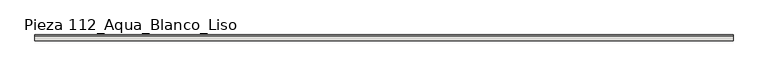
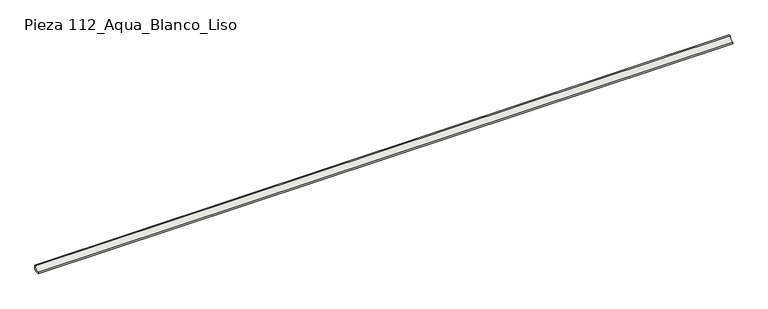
"""IFC4 building model written with IfcOpenShell, lengths in millimetres: slab geometry, ROSA GRES_112 : Pieza 112_Aqua_Blanco_Liso."""

import ifcopenshell
import ifcopenshell.guid

model = None  # the IFC model being written
_history = None  # IfcOwnerHistory: only IFC2X3 demands one
_inside = {}  # id of a spatial element -> (the spatial element, [elements in it])
_under = {}  # id of a project, library or spatial element -> (it, [spatial elements below it])
_declared = {}  # id of a project -> (the project, [libraries it declares])
_typed = {}  # id of a type object -> (the type object, [elements of that type])
_made_of = {}  # id of a material, layer set ... -> (it, [elements and type objects made of it])


def new_model(schema):
    """Start an empty IFC model of exactly this schema.

    Asked for "IFC4X3", IfcOpenShell would pick the latest addendum, in which some entities
    have other attributes; the version numbers below select the first issue.
    IFC2X3 requires an IfcOwnerHistory on every rooted entity: one is made here for all.
    """
    global model, _history
    if schema == "IFC4X3":
        model = ifcopenshell.file(schema_version=(4, 3, 0, 0))
    else:
        model = ifcopenshell.file(schema=schema)
    _inside.clear()
    _under.clear()
    _declared.clear()
    _typed.clear()
    _made_of.clear()
    _history = None
    if model.schema == "IFC2X3":
        org = make("IfcOrganization", Name="unknown")
        user = make(
            "IfcPersonAndOrganization",
            ThePerson=make("IfcPerson", FamilyName="unknown"),
            TheOrganization=org,
        )
        app = make(
            "IfcApplication",
            ApplicationDeveloper=org,
            Version="unknown",
            ApplicationFullName="unknown",
            ApplicationIdentifier="unknown",
        )
        _history = make(
            "IfcOwnerHistory",
            OwningUser=user,
            OwningApplication=app,
            ChangeAction="ADDED",
            CreationDate=0,
        )
    return model


def make(cls, **values):
    """One entity of the class cls with the attributes given. An attribute that is None is left unset."""
    return model.create_entity(
        cls, **{name: value for name, value in values.items() if value is not None}
    )


def rooted(cls, **values):
    """An entity with a GlobalId (a new one), such as an element, a storey or a relation."""
    return make(cls, GlobalId=ifcopenshell.guid.new(), OwnerHistory=_history, **values)


def si_unit(unit_type, name, prefix=None):
    """IfcSIUnit, for example si_unit("LENGTHUNIT", "METRE", prefix="MILLI")."""
    return make("IfcSIUnit", UnitType=unit_type, Prefix=prefix, Name=name)


def assignment(units):
    """IfcUnitAssignment: the units of a project."""
    return None if units is None else make("IfcUnitAssignment", Units=units)


def point(xyz):
    """IfcCartesianPoint."""
    return None if xyz is None else make("IfcCartesianPoint", Coordinates=xyz)


def direction(xyz):
    """IfcDirection."""
    return None if xyz is None else make("IfcDirection", DirectionRatios=xyz)


def frame(location, z_axis=None, x_axis=None):
    """IfcAxis2Placement3D, a coordinate frame: its origin and axes. An axis left out is left unset."""
    return make(
        "IfcAxis2Placement3D",
        Location=point(location),
        Axis=direction(z_axis),
        RefDirection=direction(x_axis),
    )


def frame_2d(location, x_axis=None):
    """IfcAxis2Placement2D, a coordinate frame in the plane: its origin and x axis."""
    return make(
        "IfcAxis2Placement2D", Location=point(location), RefDirection=direction(x_axis)
    )


def origin():
    """The frame at (0, 0, 0) with its axes left unset."""
    return frame((0.0, 0.0, 0.0))


def place(relative_to, where):
    """IfcLocalPlacement: puts the frame where relative to a parent placement (None: the world)."""
    return make(
        "IfcLocalPlacement", PlacementRelTo=relative_to, RelativePlacement=where
    )


def context(
    kind, dimensions, precision=None, world=None, true_north=None, identifier=None
):
    """IfcGeometricRepresentationContext, for example the 3D "Model" context."""
    return make(
        "IfcGeometricRepresentationContext",
        ContextIdentifier=identifier,
        ContextType=kind,
        CoordinateSpaceDimension=dimensions,
        Precision=precision,
        WorldCoordinateSystem=world,
        TrueNorth=true_north,
    )


def project(units=None, contexts=None):
    """IfcProject with its units and contexts."""
    return rooted(
        "IfcProject",
        Name="project",
        RepresentationContexts=contexts,
        UnitsInContext=assignment(units),
    )


def spatial(cls, under=None, at=None, **own):
    """A site, building, storey or space (cls), placed at a placement, below another one or the project."""
    s = rooted(cls, ObjectPlacement=at, **own)
    if under is not None:
        _under.setdefault(under.id(), (under, []))[1].append(s)
    return s


def polyline(points):
    """IfcPolyline through the points."""
    return make("IfcPolyline", Points=[point(p) for p in points])


def circle_curve(where, radius):
    """IfcCircle in the frame where."""
    return make("IfcCircle", Position=where, Radius=radius)


def trimmed(basis, trim1, trim2, sense, master):
    """IfcTrimmedCurve: the piece of a basis curve between two trims."""
    return make(
        "IfcTrimmedCurve",
        BasisCurve=basis,
        Trim1=trim1,
        Trim2=trim2,
        SenseAgreement=sense,
        MasterRepresentation=master,
    )


def segment(curve, same_sense, transition):
    """IfcCompositeCurveSegment."""
    return make(
        "IfcCompositeCurveSegment",
        Transition=transition,
        SameSense=same_sense,
        ParentCurve=curve,
    )


def composite_curve(segments, self_intersect=None):
    """IfcCompositeCurve: segments joined end to end."""
    return make("IfcCompositeCurve", Segments=segments, SelfIntersect=self_intersect)


def outline(outer, holes=None, kind="AREA"):
    """IfcArbitraryClosedProfileDef: a profile drawn as a closed curve; with holes, ...WithVoids."""
    if holes is None:
        return make("IfcArbitraryClosedProfileDef", ProfileType=kind, OuterCurve=outer)
    return make(
        "IfcArbitraryProfileDefWithVoids",
        ProfileType=kind,
        OuterCurve=outer,
        InnerCurves=holes,
    )


def extrude(swept, where, along, depth):
    """IfcExtrudedAreaSolid: the profile swept, set in the frame where, extruded along a direction by depth."""
    return make(
        "IfcExtrudedAreaSolid",
        SweptArea=swept,
        Position=where,
        ExtrudedDirection=direction(along),
        Depth=depth,
    )


def shape(context_of_items, identifier, shape_type, items):
    """IfcShapeRepresentation: the items that make up one representation, for example the "Body"."""
    return make(
        "IfcShapeRepresentation",
        ContextOfItems=context_of_items,
        RepresentationIdentifier=identifier,
        RepresentationType=shape_type,
        Items=items,
    )


def source(mapping_origin, context_of_items, identifier, shape_type, items):
    """IfcRepresentationMap: a shape defined once, which mapped items show again and again."""
    return make(
        "IfcRepresentationMap",
        MappingOrigin=mapping_origin,
        MappedRepresentation=shape(context_of_items, identifier, shape_type, items),
    )


def transform(
    local_origin,
    x_axis=None,
    y_axis=None,
    z_axis=None,
    scale=None,
    scale2=None,
    scale3=None,
    uniform=True,
):
    """IfcCartesianTransformationOperator3D, or its non-uniform kind. x_axis, y_axis, z_axis: its Axis1, 2, 3."""
    if uniform:
        return make(
            "IfcCartesianTransformationOperator3D",
            Axis1=direction(x_axis),
            Axis2=direction(y_axis),
            LocalOrigin=point(local_origin),
            Scale=scale,
            Axis3=direction(z_axis),
        )
    return make(
        "IfcCartesianTransformationOperator3DnonUniform",
        Axis1=direction(x_axis),
        Axis2=direction(y_axis),
        LocalOrigin=point(local_origin),
        Scale=scale,
        Axis3=direction(z_axis),
        Scale2=scale2,
        Scale3=scale3,
    )


def mapped(mapping_source, mapping_target):
    """IfcMappedItem: shows the shape of a source again, moved by a transform."""
    return make(
        "IfcMappedItem", MappingSource=mapping_source, MappingTarget=mapping_target
    )


def made_of(thing, what):
    """Note that an element or type object is made of a material, layer set ...; save() writes the relation."""
    if what is not None:
        _made_of.setdefault(what.id(), (what, []))[1].append(thing)
    return thing


def element(
    cls,
    number,
    at=None,
    inside=None,
    cuts=None,
    type_object=None,
    material=None,
    context=None,
    identifier="Body",
    shape_type=None,
    held_by="IfcProductDefinitionShape",
    body=None,
    shapes=None,
    **own,
):
    """One element of the class cls, such as IfcWall. Its Tag is "e" and its number.

    at: its placement. inside: the storey or other place that contains it. cuts: it is an
    opening in that element (IfcRelVoidsElement). A single representation is given by context,
    identifier, shape_type and body (its items); several are given by shapes. held_by: the class
    of the entity that holds the representations. save() writes the other relations.
    """
    e = rooted(cls, Tag="e%d" % number, ObjectPlacement=at, **own)
    if body is not None:
        shapes = [shape(context, identifier, shape_type, body)]
    if shapes is not None:
        e.Representation = make(held_by, Representations=shapes)
    if inside is not None:
        _inside.setdefault(inside.id(), (inside, []))[1].append(e)
    if cuts is not None:
        rooted(
            "IfcRelVoidsElement", RelatingBuildingElement=cuts, RelatedOpeningElement=e
        )
    if type_object is not None:
        _typed.setdefault(type_object.id(), (type_object, []))[1].append(e)
    return made_of(e, material)


def aggregate(whole, parts):
    """IfcRelAggregates: a whole, such as a stair, and the parts it consists of."""
    return rooted("IfcRelAggregates", RelatingObject=whole, RelatedObjects=parts)


def save(model, path):
    """Write the relations noted so far, then the file.

    IfcRelAggregates (storeys below a building ...), IfcRelContainedInSpatialStructure (elements
    in a storey), IfcRelDefinesByType, IfcRelAssociatesMaterial and IfcRelDeclares: one each for
    every whole, place, type object, material and project.
    """
    for whole, parts in _under.values():
        aggregate(whole, parts)
    for where, things in _inside.values():
        rooted(
            "IfcRelContainedInSpatialStructure",
            RelatedElements=things,
            RelatingStructure=where,
        )
    for kind, things in _typed.values():
        rooted("IfcRelDefinesByType", RelatedObjects=things, RelatingType=kind)
    for what, things in _made_of.values():
        rooted("IfcRelAssociatesMaterial", RelatedObjects=things, RelatingMaterial=what)
    for by, libraries in _declared.values():
        rooted("IfcRelDeclares", RelatingContext=by, RelatedDefinitions=libraries)
    model.write(path)


def pieza_112_aqua_blanco_liso_17d7c7d5(model_context):
    return source(origin(), model_context, "Body", "SweptSolid", [
        extrude(outline(composite_curve([segment(polyline([(0.0, 8.7114978), (-8.7114978, 0.0), (-40.0, 0.0), (-40.0, 9.9734114)]), True, "CONTINUOUS"), segment(trimmed(circle_curve(frame_2d((-39.9955547, 39.9955547)), 30.0221435), [point((-40.0, 9.9734114))], [point((-9.9734114, 40.0))], True, "CARTESIAN"), True, "CONTINUOUS"), segment(polyline([(-9.9734114, 40.0), (0.0, 40.0), (0.0, 8.7114978)]), True, "CONTINUOUS")], self_intersect=False)), frame((0.0, 0.0, 0.0), z_axis=(1.0, 0.0, 0.0), x_axis=(0.0, 1.0, 0.0)), (0.0, 0.0, 1.0), 4795.2960537),
    ])


if __name__ == "__main__":
    model = new_model("IFC4")
    model_context = context("Model", 3, world=origin())
    ifc_project = project(units=[si_unit("LENGTHUNIT", "METRE", prefix="MILLI")], contexts=[model_context])
    site = spatial("IfcSite", under=ifc_project)
    building = spatial("IfcBuilding", under=site)
    placement = place(None, origin())
    pieza_112_aqua_blanco_liso_shape = pieza_112_aqua_blanco_liso_17d7c7d5(model_context)
    element("IfcSlab", 1, ObjectType="ROSA GRES_112 : Pieza 112_Aqua_Blanco_Liso", at=placement, inside=building, context=model_context, shape_type="MappedRepresentation", body=[
        mapped(pieza_112_aqua_blanco_liso_shape, transform((0.0, 0.0, 0.0), x_axis=(1.0, 0.0, 0.0), y_axis=(0.0, 1.0, 0.0), z_axis=(0.0, 0.0, 1.0))),
    ])
    save(model, "model.ifc")
